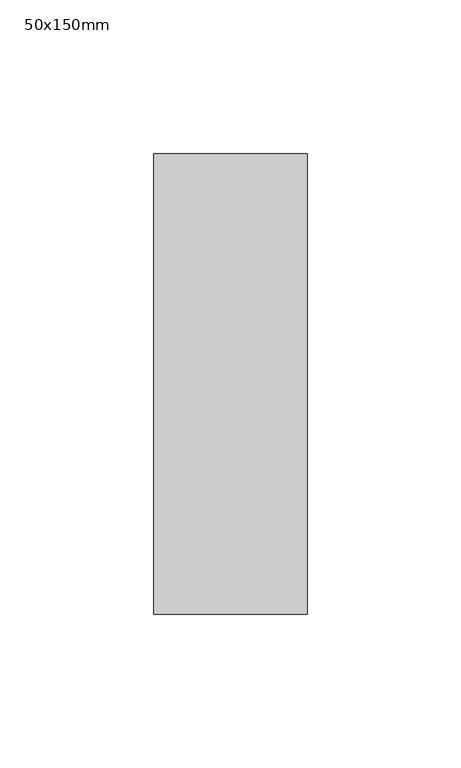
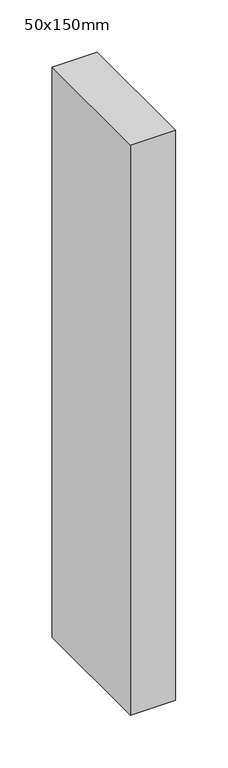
"""IFC4 building model written with IfcOpenShell, lengths in millimetres: member geometry, 長方形マリオン : 50x150mm."""

from ifc_helpers import new_model, si_unit, frame, origin, place, context, project, spatial, polyline, outline, extrude, source, transform, mapped, element, save


def member_50x150mm_43fc7b63(model_context):
    return source(origin(), model_context, "Body", "SweptSolid", [
        extrude(outline(polyline([(25.0, 75.0), (25.0, -75.0), (-25.0, -75.0), (-25.0, 75.0), (25.0, 75.0)])), frame((0.0, 0.0, -666.6666667), z_axis=(0.0, 0.0, 1.0), x_axis=(1.0, 0.0, 0.0)), (0.0, 0.0, 1.0), 666.6666667),
    ])


if __name__ == "__main__":
    model = new_model("IFC4")
    model_context = context("Model", 3, world=origin())
    ifc_project = project(units=[si_unit("LENGTHUNIT", "METRE", prefix="MILLI")], contexts=[model_context])
    site = spatial("IfcSite", under=ifc_project)
    building = spatial("IfcBuilding", under=site)
    placement = place(None, origin())
    member_50x150mm_shape = member_50x150mm_43fc7b63(model_context)
    element("IfcMember", 1, ObjectType="長方形マリオン : 50x150mm", at=placement, inside=building, context=model_context, shape_type="MappedRepresentation", body=[
        mapped(member_50x150mm_shape, transform((0.0, 0.0, 0.0), x_axis=(1.0, 0.0, 0.0), y_axis=(0.0, 1.0, 0.0), z_axis=(0.0, 0.0, 1.0))),
    ])
    save(model, "model.ifc")
